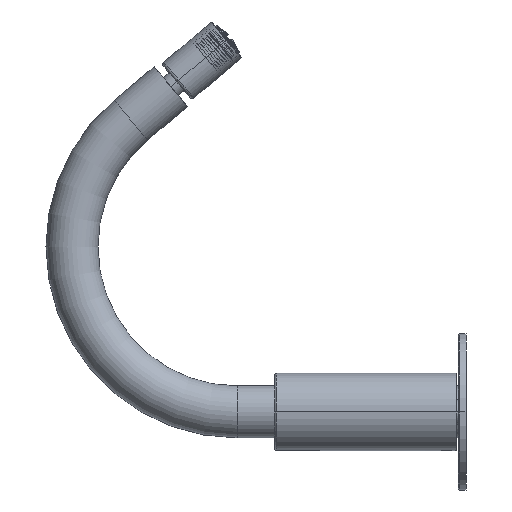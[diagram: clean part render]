
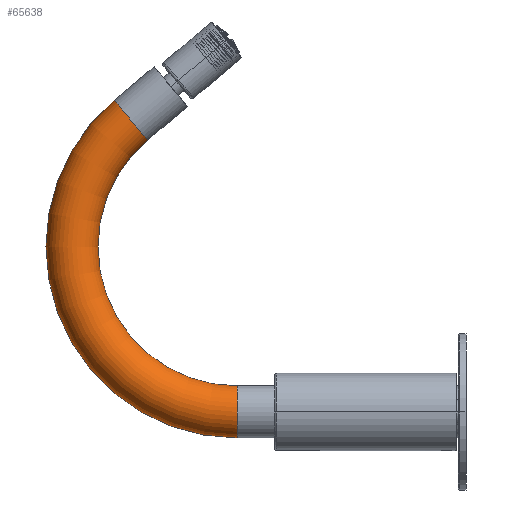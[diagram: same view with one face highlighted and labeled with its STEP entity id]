
A CAD part, left-side view. The second image highlights one B-rep face of the part: STEP entity #65638.
In plain terms, the highlighted toroidal (fillet/blend) face has major radius 63.5 mm and minor radius 10 mm.
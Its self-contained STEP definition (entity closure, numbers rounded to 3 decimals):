
#59731=CARTESIAN_POINT('',(0.,144.817,112.144));
#59732=DIRECTION('',(0.,-0.766,0.643));
#59733=DIRECTION('',(0.,0.643,0.766));
#59734=AXIS2_PLACEMENT_3D('',#59731,#59732,#59733);
#59740=CARTESIAN_POINT('',(0.,104.,0.));
#59741=DIRECTION('',(0.,1.,0.));
#59742=DIRECTION('',(0.,0.,-1.));
#59743=AXIS2_PLACEMENT_3D('',#59740,#59741,#59742);
#59745=CARTESIAN_POINT('',(0.,104.,63.5));
#59746=DIRECTION('',(1.,0.,0.));
#59747=DIRECTION('',(0.,0.,-1.));
#59748=AXIS2_PLACEMENT_3D('',#59745,#59746,#59747);
#60063=CARTESIAN_POINT('',(0.,104.,63.5));
#60064=DIRECTION('',(1.,0.,0.));
#60065=DIRECTION('',(0.,0.,-1.));
#60066=AXIS2_PLACEMENT_3D('',#60063,#60064,#60065);
#60229=CARTESIAN_POINT('',(0.,104.,-10.));
#60230=CARTESIAN_POINT('',(0.,104.,10.));
#60231=VERTEX_POINT('',#60229);
#60232=VERTEX_POINT('',#60230);
#60237=CARTESIAN_POINT('',(0.,151.245,119.805));
#60238=CARTESIAN_POINT('',(0.,138.389,104.484));
#60239=VERTEX_POINT('',#60237);
#60240=VERTEX_POINT('',#60238);
#65624=CARTESIAN_POINT('',(0.,104.,63.5));
#65625=DIRECTION('',(1.,0.,0.));
#65626=DIRECTION('',(0.,0.,1.));
#65627=AXIS2_PLACEMENT_3D('',#65624,#65625,#65626);
#65628=TOROIDAL_SURFACE('',#65627,63.5,10.);
#65630=ORIENTED_EDGE('',*,*,#65629,.F.);
#65632=ORIENTED_EDGE('',*,*,#65631,.T.);
#65633=ORIENTED_EDGE('',*,*,#65614,.T.);
#65635=ORIENTED_EDGE('',*,*,#65634,.F.);
#65636=EDGE_LOOP('',(#65630,#65632,#65633,#65635));
#65637=FACE_OUTER_BOUND('',#65636,.F.);
#65638=ADVANCED_FACE('',(#65637),#65628,.T.);
#59735=CIRCLE('',#59734,10.);
#59744=CIRCLE('',#59743,10.);
#59749=CIRCLE('',#59748,73.5);
#60067=CIRCLE('',#60066,53.5);
#65614=EDGE_CURVE('',#60239,#60240,#59735,.T.);
#65629=EDGE_CURVE('',#60231,#60232,#59744,.T.);
#65631=EDGE_CURVE('',#60231,#60239,#59749,.T.);
#65634=EDGE_CURVE('',#60232,#60240,#60067,.T.);
